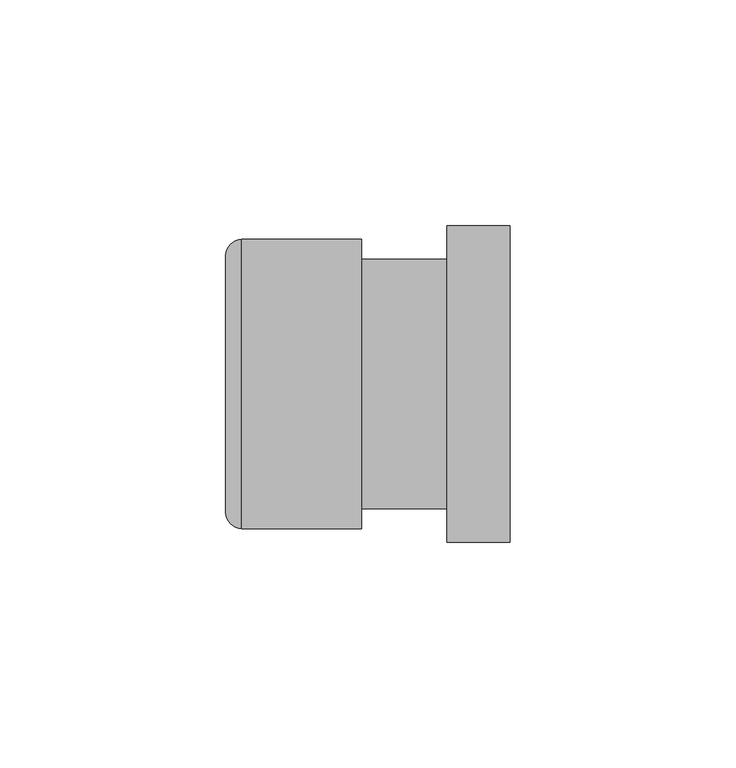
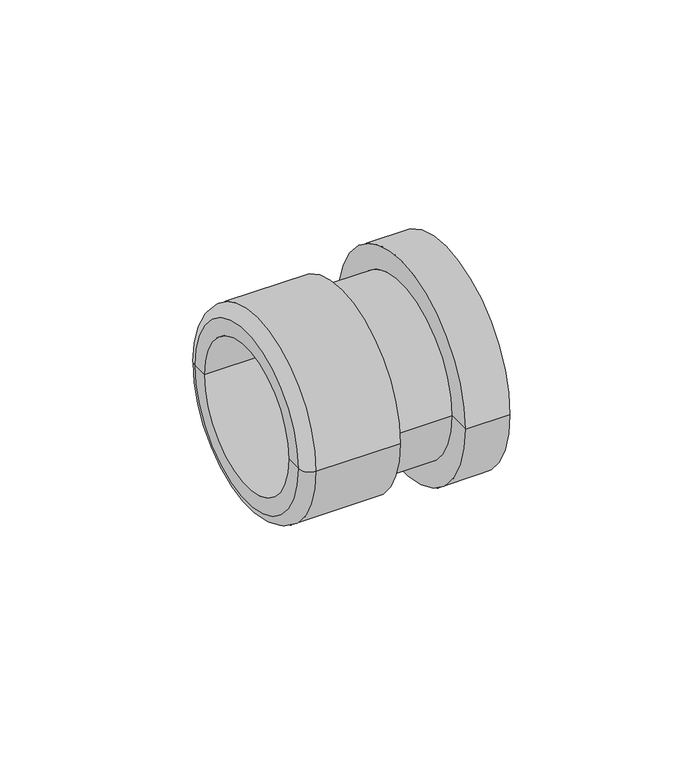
"""IFC4 building model written with IfcOpenShell, lengths in millimetres: cable carrier fitting geometry."""

import ifcopenshell
import ifcopenshell.guid

model = None  # the IFC model being written
_history = None  # IfcOwnerHistory: only IFC2X3 demands one
_inside = {}  # id of a spatial element -> (the spatial element, [elements in it])
_under = {}  # id of a project, library or spatial element -> (it, [spatial elements below it])
_declared = {}  # id of a project -> (the project, [libraries it declares])
_typed = {}  # id of a type object -> (the type object, [elements of that type])
_made_of = {}  # id of a material, layer set ... -> (it, [elements and type objects made of it])


def new_model(schema):
    """Start an empty IFC model of exactly this schema.

    Asked for "IFC4X3", IfcOpenShell would pick the latest addendum, in which some entities
    have other attributes; the version numbers below select the first issue.
    IFC2X3 requires an IfcOwnerHistory on every rooted entity: one is made here for all.
    """
    global model, _history
    if schema == "IFC4X3":
        model = ifcopenshell.file(schema_version=(4, 3, 0, 0))
    else:
        model = ifcopenshell.file(schema=schema)
    _inside.clear()
    _under.clear()
    _declared.clear()
    _typed.clear()
    _made_of.clear()
    _history = None
    if model.schema == "IFC2X3":
        org = make("IfcOrganization", Name="unknown")
        user = make(
            "IfcPersonAndOrganization",
            ThePerson=make("IfcPerson", FamilyName="unknown"),
            TheOrganization=org,
        )
        app = make(
            "IfcApplication",
            ApplicationDeveloper=org,
            Version="unknown",
            ApplicationFullName="unknown",
            ApplicationIdentifier="unknown",
        )
        _history = make(
            "IfcOwnerHistory",
            OwningUser=user,
            OwningApplication=app,
            ChangeAction="ADDED",
            CreationDate=0,
        )
    return model


def make(cls, **values):
    """One entity of the class cls with the attributes given. An attribute that is None is left unset."""
    return model.create_entity(
        cls, **{name: value for name, value in values.items() if value is not None}
    )


def rooted(cls, **values):
    """An entity with a GlobalId (a new one), such as an element, a storey or a relation."""
    return make(cls, GlobalId=ifcopenshell.guid.new(), OwnerHistory=_history, **values)


def si_unit(unit_type, name, prefix=None):
    """IfcSIUnit, for example si_unit("LENGTHUNIT", "METRE", prefix="MILLI")."""
    return make("IfcSIUnit", UnitType=unit_type, Prefix=prefix, Name=name)


def assignment(units):
    """IfcUnitAssignment: the units of a project."""
    return None if units is None else make("IfcUnitAssignment", Units=units)


def point(xyz):
    """IfcCartesianPoint."""
    return None if xyz is None else make("IfcCartesianPoint", Coordinates=xyz)


def direction(xyz):
    """IfcDirection."""
    return None if xyz is None else make("IfcDirection", DirectionRatios=xyz)


def frame(location, z_axis=None, x_axis=None):
    """IfcAxis2Placement3D, a coordinate frame: its origin and axes. An axis left out is left unset."""
    return make(
        "IfcAxis2Placement3D",
        Location=point(location),
        Axis=direction(z_axis),
        RefDirection=direction(x_axis),
    )


def origin():
    """The frame at (0, 0, 0) with its axes left unset."""
    return frame((0.0, 0.0, 0.0))


def place(relative_to, where):
    """IfcLocalPlacement: puts the frame where relative to a parent placement (None: the world)."""
    return make(
        "IfcLocalPlacement", PlacementRelTo=relative_to, RelativePlacement=where
    )


def context(
    kind, dimensions, precision=None, world=None, true_north=None, identifier=None
):
    """IfcGeometricRepresentationContext, for example the 3D "Model" context."""
    return make(
        "IfcGeometricRepresentationContext",
        ContextIdentifier=identifier,
        ContextType=kind,
        CoordinateSpaceDimension=dimensions,
        Precision=precision,
        WorldCoordinateSystem=world,
        TrueNorth=true_north,
    )


def project(units=None, contexts=None):
    """IfcProject with its units and contexts."""
    return rooted(
        "IfcProject",
        Name="project",
        RepresentationContexts=contexts,
        UnitsInContext=assignment(units),
    )


def spatial(cls, under=None, at=None, **own):
    """A site, building, storey or space (cls), placed at a placement, below another one or the project."""
    s = rooted(cls, ObjectPlacement=at, **own)
    if under is not None:
        _under.setdefault(under.id(), (under, []))[1].append(s)
    return s


def polyline(points):
    """IfcPolyline through the points."""
    return make("IfcPolyline", Points=[point(p) for p in points])


def circle_curve(where, radius):
    """IfcCircle in the frame where."""
    return make("IfcCircle", Position=where, Radius=radius)


def ellipse_curve(where, semi_axis1, semi_axis2):
    """IfcEllipse in the frame where."""
    return make(
        "IfcEllipse", Position=where, SemiAxis1=semi_axis1, SemiAxis2=semi_axis2
    )


def trimmed(basis, trim1, trim2, sense, master):
    """IfcTrimmedCurve: the piece of a basis curve between two trims."""
    return make(
        "IfcTrimmedCurve",
        BasisCurve=basis,
        Trim1=trim1,
        Trim2=trim2,
        SenseAgreement=sense,
        MasterRepresentation=master,
    )


def shape(context_of_items, identifier, shape_type, items):
    """IfcShapeRepresentation: the items that make up one representation, for example the "Body"."""
    return make(
        "IfcShapeRepresentation",
        ContextOfItems=context_of_items,
        RepresentationIdentifier=identifier,
        RepresentationType=shape_type,
        Items=items,
    )


def source(mapping_origin, context_of_items, identifier, shape_type, items):
    """IfcRepresentationMap: a shape defined once, which mapped items show again and again."""
    return make(
        "IfcRepresentationMap",
        MappingOrigin=mapping_origin,
        MappedRepresentation=shape(context_of_items, identifier, shape_type, items),
    )


def transform(
    local_origin,
    x_axis=None,
    y_axis=None,
    z_axis=None,
    scale=None,
    scale2=None,
    scale3=None,
    uniform=True,
):
    """IfcCartesianTransformationOperator3D, or its non-uniform kind. x_axis, y_axis, z_axis: its Axis1, 2, 3."""
    if uniform:
        return make(
            "IfcCartesianTransformationOperator3D",
            Axis1=direction(x_axis),
            Axis2=direction(y_axis),
            LocalOrigin=point(local_origin),
            Scale=scale,
            Axis3=direction(z_axis),
        )
    return make(
        "IfcCartesianTransformationOperator3DnonUniform",
        Axis1=direction(x_axis),
        Axis2=direction(y_axis),
        LocalOrigin=point(local_origin),
        Scale=scale,
        Axis3=direction(z_axis),
        Scale2=scale2,
        Scale3=scale3,
    )


def mapped(mapping_source, mapping_target):
    """IfcMappedItem: shows the shape of a source again, moved by a transform."""
    return make(
        "IfcMappedItem", MappingSource=mapping_source, MappingTarget=mapping_target
    )


def made_of(thing, what):
    """Note that an element or type object is made of a material, layer set ...; save() writes the relation."""
    if what is not None:
        _made_of.setdefault(what.id(), (what, []))[1].append(thing)
    return thing


def element(
    cls,
    number,
    at=None,
    inside=None,
    cuts=None,
    type_object=None,
    material=None,
    context=None,
    identifier="Body",
    shape_type=None,
    held_by="IfcProductDefinitionShape",
    body=None,
    shapes=None,
    **own,
):
    """One element of the class cls, such as IfcWall. Its Tag is "e" and its number.

    at: its placement. inside: the storey or other place that contains it. cuts: it is an
    opening in that element (IfcRelVoidsElement). A single representation is given by context,
    identifier, shape_type and body (its items); several are given by shapes. held_by: the class
    of the entity that holds the representations. save() writes the other relations.
    """
    e = rooted(cls, Tag="e%d" % number, ObjectPlacement=at, **own)
    if body is not None:
        shapes = [shape(context, identifier, shape_type, body)]
    if shapes is not None:
        e.Representation = make(held_by, Representations=shapes)
    if inside is not None:
        _inside.setdefault(inside.id(), (inside, []))[1].append(e)
    if cuts is not None:
        rooted(
            "IfcRelVoidsElement", RelatingBuildingElement=cuts, RelatedOpeningElement=e
        )
    if type_object is not None:
        _typed.setdefault(type_object.id(), (type_object, []))[1].append(e)
    return made_of(e, material)


def aggregate(whole, parts):
    """IfcRelAggregates: a whole, such as a stair, and the parts it consists of."""
    return rooted("IfcRelAggregates", RelatingObject=whole, RelatedObjects=parts)


def save(model, path):
    """Write the relations noted so far, then the file.

    IfcRelAggregates (storeys below a building ...), IfcRelContainedInSpatialStructure (elements
    in a storey), IfcRelDefinesByType, IfcRelAssociatesMaterial and IfcRelDeclares: one each for
    every whole, place, type object, material and project.
    """
    for whole, parts in _under.values():
        aggregate(whole, parts)
    for where, things in _inside.values():
        rooted(
            "IfcRelContainedInSpatialStructure",
            RelatedElements=things,
            RelatingStructure=where,
        )
    for kind, things in _typed.values():
        rooted("IfcRelDefinesByType", RelatedObjects=things, RelatingType=kind)
    for what, things in _made_of.values():
        rooted("IfcRelAssociatesMaterial", RelatedObjects=things, RelatingMaterial=what)
    for by, libraries in _declared.values():
        rooted("IfcRelDeclares", RelatingContext=by, RelatedDefinitions=libraries)
    model.write(path)


def plane_surface(at):
    """IfcPlane: the flat surface through the origin of the frame at, square to its z axis."""
    return make("IfcPlane", Position=at)


def cylinder_surface(at, radius):
    """IfcCylindricalSurface: all points at the distance radius from the z axis of the frame at."""
    return make("IfcCylindricalSurface", Position=at, Radius=radius)


def revolved_surface(curve, axis_point, axis_direction):
    """IfcSurfaceOfRevolution: the curve turned about the line through axis_point along axis_direction."""
    return make(
        "IfcSurfaceOfRevolution",
        SweptCurve=make("IfcArbitraryOpenProfileDef", ProfileType="CURVE", Curve=curve),
        AxisPosition=make("IfcAxis1Placement", Location=point(axis_point), Axis=direction(axis_direction)),
    )


def advanced_brep(points, edges, surfaces, faces):
    """IfcAdvancedBrep: a solid bounded by faces that lie on surfaces and meet in shared edges.

    An edge is (start, end): straight between two places in points (the first is 0);
    or (start, end, curve); or (start, end, curve, False) where it runs against its curve.
    A face is (place in surfaces, loops), or (place, loops, False) where it looks against
    its surface's normal. A loop lists edges by number (the first is 1), with a minus sign
    where the edge is run from its end to its start. The first loop is the outer one.
    """
    corners = [point(p) for p in points]
    vertices = [make("IfcVertexPoint", VertexGeometry=c) for c in corners]
    made = []
    for start, end, *more in edges:
        made.append(
            make(
                "IfcEdgeCurve",
                EdgeStart=vertices[start],
                EdgeEnd=vertices[end],
                EdgeGeometry=more[0] if more else make("IfcPolyline", Points=[corners[start], corners[end]]),
                SameSense=more[1] if len(more) > 1 else True,
            )
        )
    hull = []
    for where, loops, *sense in faces:
        bounds = []
        for j, loop in enumerate(loops):
            ring = [make("IfcOrientedEdge", EdgeElement=made[abs(k) - 1], Orientation=k > 0) for k in loop]
            bounds.append(
                make(
                    "IfcFaceOuterBound" if j == 0 else "IfcFaceBound",
                    Bound=make("IfcEdgeLoop", EdgeList=ring),
                    Orientation=True,
                )
            )
        hull.append(make("IfcAdvancedFace", Bounds=bounds, FaceSurface=surfaces[where], SameSense=sense[0] if sense else True))
    return make("IfcAdvancedBrep", Outer=make("IfcClosedShell", CfsFaces=hull))


def cable_carrier_fitting_c9cf25a2(model_context):
    return source(origin(), model_context, "Body", "AdvancedBrep", [
        advanced_brep(
        [(0.0, -32.0, 0.0), (0.0, 32.0, 0.0), (0.0, 27.625, 0.0), (0.0, -27.625, 0.0), (-26.539955, -32.0, 0.0), (-26.539955, 32.0, 0.0), (-30.1, -28.439955, 0.0), (-30.1, 28.439955, 0.0), (-30.1, -23.25, 0.0), (-30.1, 23.25, 0.0), (32.9, -23.25, 0.0), (32.9, 23.25, 0.0), (32.9, -35.0, 0.0), (32.9, 35.0, 0.0), (18.9, -35.0, 0.0), (18.9, 35.0, 0.0), (18.9, -27.625, 0.0), (18.9, 27.625, 0.0)],
        [
            (0, 1, circle_curve(frame((0.0, 0.0, 0.0), z_axis=(1.0, 0.0, 0.0), x_axis=(0.0, 1.0, 0.0)), 32.0)),
            (1, 2),
            (2, 3, circle_curve(frame((0.0, 0.0, 0.0), z_axis=(-1.0, 0.0, 0.0), x_axis=(0.0, 1.0, 0.0)), 27.625)),
            (3, 0),
            (1, 0, circle_curve(frame((0.0, 0.0, 0.0), z_axis=(1.0, 0.0, 0.0), x_axis=(0.0, 1.0, 0.0)), 32.0)),
            (3, 2, circle_curve(frame((0.0, 0.0, 0.0), z_axis=(-1.0, 0.0, 0.0), x_axis=(0.0, 1.0, 0.0)), 27.625)),
            (4, 5, circle_curve(frame((-26.539955, 0.0, 0.0), z_axis=(1.0, 0.0, 0.0), x_axis=(0.0, 1.0, 0.0)), 32.0)),
            (5, 1),
            (0, 4),
            (5, 4, circle_curve(frame((-26.539955, 0.0, 0.0), z_axis=(1.0, 0.0, 0.0), x_axis=(0.0, 1.0, 0.0)), 32.0)),
            (6, 7, circle_curve(frame((-30.1, 0.0, 0.0), z_axis=(1.0, 0.0, 0.0), x_axis=(0.0, 1.0, 0.0)), 28.439955)),
            (7, 5, circle_curve(frame((-26.539955, 28.439955, 0.0), z_axis=(0.0, 0.0, -1.0), x_axis=(1.0, 0.0, 0.0)), 3.560045)),
            (4, 6, circle_curve(frame((-26.539955, -28.439955, 0.0), z_axis=(0.0, 0.0, -1.0), x_axis=(1.0, 0.0, 0.0)), 3.560045)),
            (7, 6, circle_curve(frame((-30.1, 0.0, 0.0), z_axis=(1.0, 0.0, 0.0), x_axis=(0.0, 1.0, 0.0)), 28.439955)),
            (8, 9, circle_curve(frame((-30.1, 0.0, 0.0), z_axis=(1.0, 0.0, 0.0), x_axis=(0.0, 1.0, 0.0)), 23.25)),
            (9, 7),
            (6, 8),
            (9, 8, circle_curve(frame((-30.1, 0.0, 0.0), z_axis=(1.0, 0.0, 0.0), x_axis=(0.0, 1.0, 0.0)), 23.25)),
            (10, 11, circle_curve(frame((32.9, 0.0, 0.0), z_axis=(1.0, 0.0, 0.0), x_axis=(0.0, 1.0, 0.0)), 23.25)),
            (11, 9),
            (8, 10),
            (11, 10, circle_curve(frame((32.9, 0.0, 0.0), z_axis=(1.0, 0.0, 0.0), x_axis=(0.0, 1.0, 0.0)), 23.25)),
            (12, 13, circle_curve(frame((32.9, 0.0, 0.0), z_axis=(1.0, 0.0, 0.0), x_axis=(0.0, 1.0, 0.0)), 35.0)),
            (13, 11),
            (10, 12),
            (13, 12, circle_curve(frame((32.9, 0.0, 0.0), z_axis=(1.0, 0.0, 0.0), x_axis=(0.0, 1.0, 0.0)), 35.0)),
            (14, 15, circle_curve(frame((18.9, 0.0, 0.0), z_axis=(1.0, 0.0, 0.0), x_axis=(0.0, 1.0, 0.0)), 35.0)),
            (15, 13),
            (12, 14),
            (15, 14, circle_curve(frame((18.9, 0.0, 0.0), z_axis=(1.0, 0.0, 0.0), x_axis=(0.0, 1.0, 0.0)), 35.0)),
            (16, 17, circle_curve(frame((18.9, 0.0, 0.0), z_axis=(1.0, 0.0, 0.0), x_axis=(0.0, 1.0, 0.0)), 27.625)),
            (17, 15),
            (14, 16),
            (17, 16, circle_curve(frame((18.9, 0.0, 0.0), z_axis=(1.0, 0.0, 0.0), x_axis=(0.0, 1.0, 0.0)), 27.625)),
            (2, 17),
            (16, 3),
        ],
        [
            plane_surface(frame((0.0, 0.0, 0.0), z_axis=(1.0, 0.0, 0.0), x_axis=(0.0, 1.0, 0.0))),
            cylinder_surface(frame((1557.3, 0.0, 0.0), z_axis=(-1.0, 0.0, 0.0), x_axis=(0.0, 1.0, 0.0)), 32.0),
            revolved_surface(trimmed(ellipse_curve(frame((-26.539955, 28.439955, 0.0), z_axis=(0.0, 0.0, 1.0), x_axis=(1.0, 0.0, 0.0)), 3.560045, 3.560045), [point((-26.539955, 32.0, 0.0))], [point((-30.1, 28.439955, 0.0))], True, "CARTESIAN"), (1557.3, 0.0, 0.0), (-1.0, 0.0, 0.0)),
            plane_surface(frame((-30.1, 0.0, 0.0), z_axis=(-1.0, 0.0, 0.0), x_axis=(0.0, 1.0, 0.0))),
            revolved_surface(polyline([(-30.09999999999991, 23.25, 0.0), (32.90000000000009, 23.25, 0.0)]), (1557.3, 0.0, 0.0), (-1.0, 0.0, 0.0)),
            plane_surface(frame((32.9, 0.0, 0.0), z_axis=(1.0, 0.0, 0.0), x_axis=(0.0, 1.0, 0.0))),
            cylinder_surface(frame((1557.3, 0.0, 0.0), z_axis=(-1.0, 0.0, 0.0), x_axis=(0.0, 1.0, 0.0)), 35.0),
            plane_surface(frame((18.9, 0.0, 0.0), z_axis=(-1.0, 0.0, 0.0), x_axis=(0.0, 1.0, 0.0))),
            cylinder_surface(frame((1557.3, 0.0, 0.0), z_axis=(-1.0, 0.0, 0.0), x_axis=(0.0, 1.0, 0.0)), 27.625),
        ],
        [
            (0, [[1, 2, 3, 4]]),
            (0, [[5, -4, 6, -2]]),
            (1, [[7, 8, -1, 9]]),
            (1, [[10, -9, -5, -8]]),
            (2, [[11, 12, -7, 13]]),
            (2, [[14, -13, -10, -12]]),
            (3, [[15, 16, -11, 17]]),
            (3, [[18, -17, -14, -16]]),
            (4, [[19, 20, -15, 21]]),
            (4, [[22, -21, -18, -20]]),
            (5, [[23, 24, -19, 25]]),
            (5, [[26, -25, -22, -24]]),
            (6, [[27, 28, -23, 29]]),
            (6, [[30, -29, -26, -28]]),
            (7, [[31, 32, -27, 33]]),
            (7, [[34, -33, -30, -32]]),
            (8, [[-3, 35, -31, 36]]),
            (8, [[-6, -36, -34, -35]]),
        ],
    ),
    ])


if __name__ == "__main__":
    model = new_model("IFC4")
    model_context = context("Model", 3, world=origin())
    ifc_project = project(units=[si_unit("LENGTHUNIT", "METRE", prefix="MILLI")], contexts=[model_context])
    site = spatial("IfcSite", under=ifc_project)
    building = spatial("IfcBuilding", under=site)
    placement = place(None, origin())
    cable_carrier_fitting_shape = cable_carrier_fitting_c9cf25a2(model_context)
    element("IfcCableCarrierFitting", 1, at=placement, inside=building, context=model_context, shape_type="MappedRepresentation", body=[
        mapped(cable_carrier_fitting_shape, transform((0.0, 0.0, 0.0), x_axis=(1.0, 0.0, 0.0), y_axis=(0.0, 1.0, 0.0), z_axis=(0.0, 0.0, 1.0))),
    ])
    save(model, "model.ifc")
